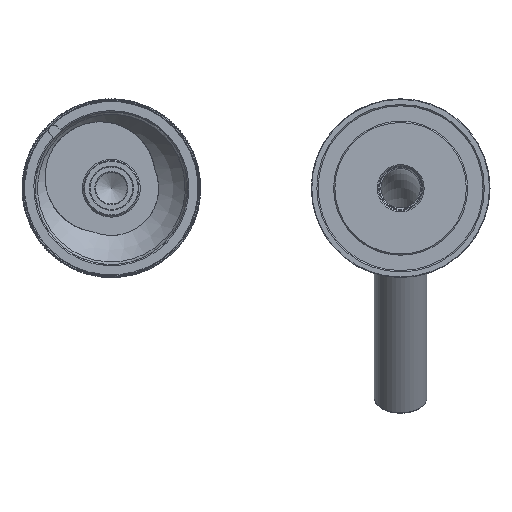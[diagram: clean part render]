
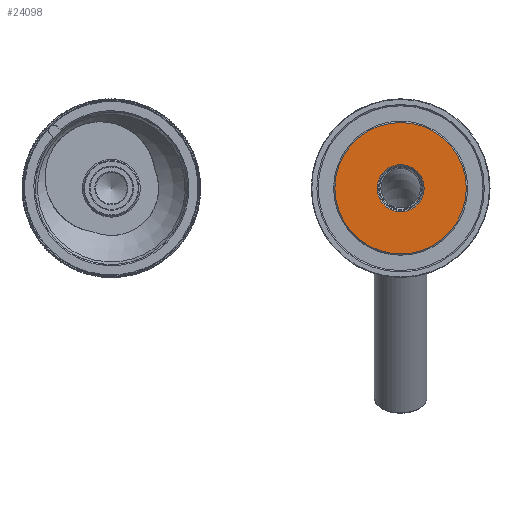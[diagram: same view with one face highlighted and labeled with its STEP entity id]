
A CAD part, front view. The second image highlights one B-rep face of the part: STEP entity #24098.
In plain terms, the highlighted planar face has unit normal (0, -1, 0) as drawn and (0, 0, -1) by its records, which use the part's own axes.
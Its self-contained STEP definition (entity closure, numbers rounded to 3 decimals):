
#2932=PLANE('',#25323);
#3440=ORIENTED_EDGE('',*,*,#8469,.T.);
#3441=ORIENTED_EDGE('',*,*,#8470,.T.);
#8469=EDGE_CURVE('',#10984,#10984,#12463,.F.);
#8470=EDGE_CURVE('',#10985,#10985,#12464,.T.);
#10984=VERTEX_POINT('',#32455);
#10985=VERTEX_POINT('',#32457);
#12463=CIRCLE('',#25324,25.);
#12464=CIRCLE('',#25325,8.959);
#13371=EDGE_LOOP('',(#3440));
#13372=EDGE_LOOP('',(#3441));
#14669=FACE_BOUND('',#13371,.T.);
#14670=FACE_BOUND('',#13372,.T.);
#24098=ADVANCED_FACE('',(#14669,#14670),#2932,.F.);
#25323=AXIS2_PLACEMENT_3D('',#32453,#27448,#27449);
#25324=AXIS2_PLACEMENT_3D('',#32454,#27450,#27451);
#25325=AXIS2_PLACEMENT_3D('',#32456,#27452,#27453);
#27448=DIRECTION('',(0.,0.,1.));
#27449=DIRECTION('',(1.,0.,0.));
#27450=DIRECTION('',(0.,0.,1.));
#27451=DIRECTION('',(1.,0.,0.));
#27452=DIRECTION('',(0.,0.,1.));
#27453=DIRECTION('',(1.,0.,0.));
#32453=CARTESIAN_POINT('',(0.,0.,1.));
#32454=CARTESIAN_POINT('',(0.,0.,1.));
#32455=CARTESIAN_POINT('',(25.,0.,1.));
#32456=CARTESIAN_POINT('',(0.,0.,1.));
#32457=CARTESIAN_POINT('',(8.959,0.,1.));
